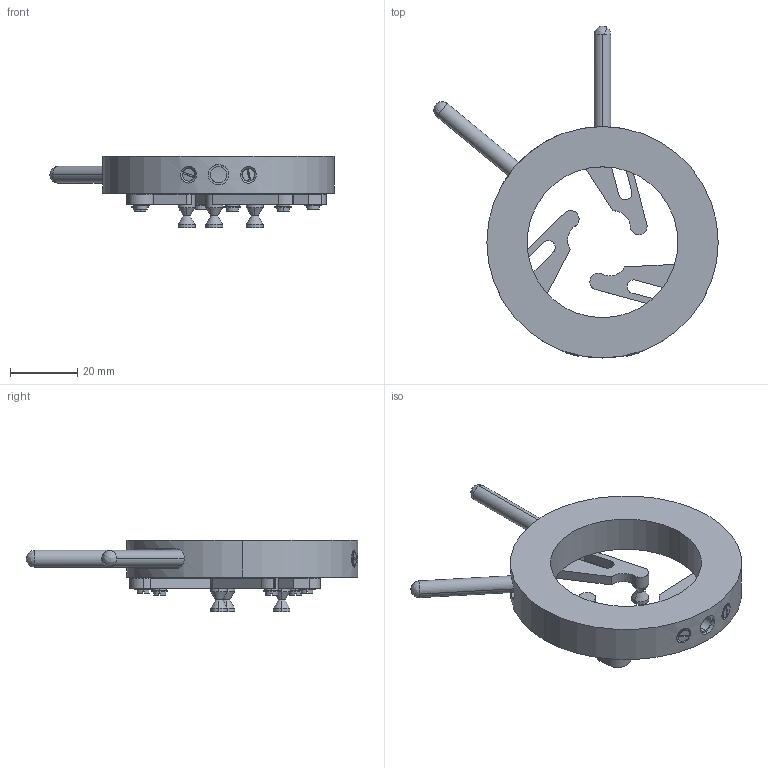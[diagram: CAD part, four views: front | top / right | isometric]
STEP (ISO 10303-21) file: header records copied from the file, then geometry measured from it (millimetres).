
FILE_DESCRIPTION (( 'STEP AP203' ), '1' );
FILE_NAME ('4LM13-40.STEP', '2010-02-21T08:45:26', ( 'Darius' ), ( '' ), 'SwSTEP 2.0', 'SolidWorks 2003240', '' );
FILE_SCHEMA (( 'CONFIG_CONTROL_DESIGN' ));
Length unit declared in the file: millimetre
Products named in the file (1): 4LM13-40
Bounding box: 84.83 x 98.99 x 21.3 mm (x, y, z)
Volume: 26643.6 mm3; surface area: 13039 mm2
Topology: 1 solids, 12 shells, 291 faces, 680 edges, 442 vertices
Faces by surface type: cylinder 137, plane 102, cone 36, bspline 16
Entity records: 9821 total; most frequent: CARTESIAN_POINT 3059, DIRECTION 1430, ORIENTED_EDGE 1352, EDGE_CURVE 676, AXIS2_PLACEMENT_3D 589, VERTEX_POINT 442, EDGE_LOOP 344, CIRCLE 313
